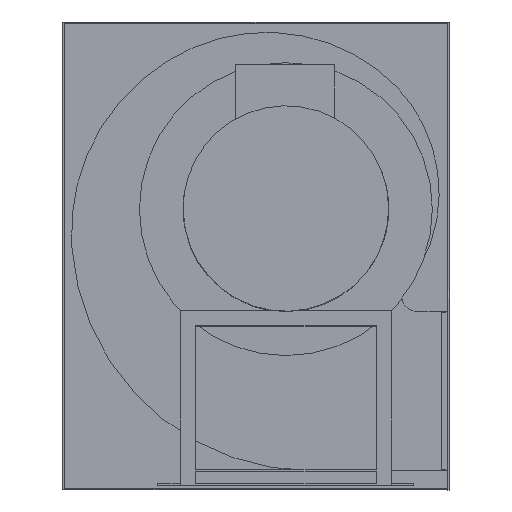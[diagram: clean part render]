
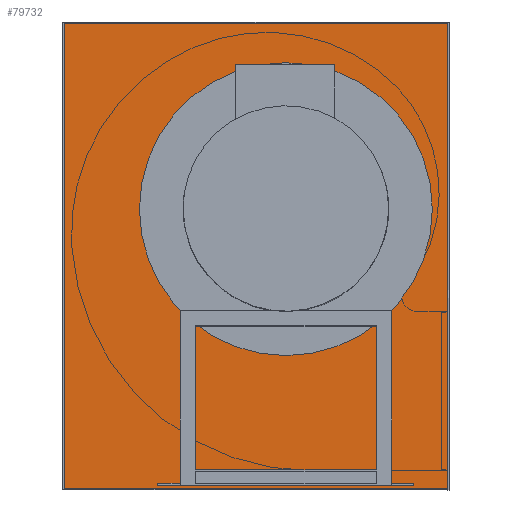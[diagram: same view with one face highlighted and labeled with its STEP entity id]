
A CAD part, top view. The second image highlights one B-rep face of the part: STEP entity #79732.
In plain terms, the highlighted planar face has unit normal (0, 0, 1).
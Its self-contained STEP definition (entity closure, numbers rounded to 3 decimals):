
#49=FACE_BOUND('',#10629,.T.);
#6068=CIRCLE('',#83215,191.);
#6837=FACE_OUTER_BOUND('',#10628,.T.);
#10628=EDGE_LOOP('',(#56517,#56518,#56519,#56520));
#10629=EDGE_LOOP('',(#56521));
#15903=LINE('',#117051,#25897);
#15904=LINE('',#117053,#25898);
#15905=LINE('',#117055,#25899);
#15906=LINE('',#117056,#25900);
#25897=VECTOR('',#87741,10.);
#25898=VECTOR('',#87742,10.);
#25899=VECTOR('',#87743,10.);
#25900=VECTOR('',#87744,10.);
#36254=VERTEX_POINT('',#117049);
#36255=VERTEX_POINT('',#117050);
#36256=VERTEX_POINT('',#117052);
#36257=VERTEX_POINT('',#117054);
#36258=VERTEX_POINT('',#117057);
#44058=EDGE_CURVE('',#36254,#36255,#15903,.T.);
#44059=EDGE_CURVE('',#36255,#36256,#15904,.T.);
#44060=EDGE_CURVE('',#36257,#36256,#15905,.T.);
#44061=EDGE_CURVE('',#36257,#36254,#15906,.T.);
#44062=EDGE_CURVE('',#36258,#36258,#6068,.T.);
#56517=ORIENTED_EDGE('',*,*,#44058,.T.);
#56518=ORIENTED_EDGE('',*,*,#44059,.T.);
#56519=ORIENTED_EDGE('',*,*,#44060,.F.);
#56520=ORIENTED_EDGE('',*,*,#44061,.T.);
#56521=ORIENTED_EDGE('',*,*,#44062,.F.);
#76012=PLANE('',#83214);
#79732=ADVANCED_FACE('',(#6837,#49),#76012,.T.);
#83214=AXIS2_PLACEMENT_3D('',#117048,#87739,#87740);
#83215=AXIS2_PLACEMENT_3D('',#117058,#87745,#87746);
#87739=DIRECTION('center_axis',(0.,0.,
1.));
#87740=DIRECTION('ref_axis',(1.,0.,0.));
#87741=DIRECTION('',(0.,1.,0.));
#87742=DIRECTION('',(-1.,0.,0.));
#87743=DIRECTION('',(0.,1.,0.));
#87744=DIRECTION('',(1.,0.,0.));
#87745=DIRECTION('center_axis',(0.,0.,
1.));
#87746=DIRECTION('ref_axis',(-1.,0.,0.));
#117048=CARTESIAN_POINT('Origin',(-39.,-140.34,-28.));
#117049=CARTESIAN_POINT('',(211.,-443.,-28.));
#117050=CARTESIAN_POINT('',(211.,163.,-28.));
#117051=CARTESIAN_POINT('',(211.,-141.5,-28.));
#117052=CARTESIAN_POINT('',(-289.,163.,-28.));
#117053=CARTESIAN_POINT('',(-39.,163.,-28.));
#117054=CARTESIAN_POINT('',(-289.,-443.,-28.));
#117055=CARTESIAN_POINT('',(-289.,-141.5,-28.));
#117056=CARTESIAN_POINT('',(-39.,-443.,-28.));
#117057=CARTESIAN_POINT('',(191.,-79.,-28.));
#117058=CARTESIAN_POINT('Origin',(0.,-79.,
-28.));
